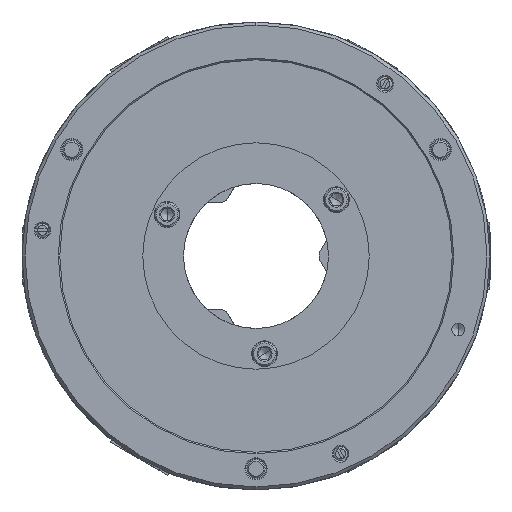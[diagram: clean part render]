
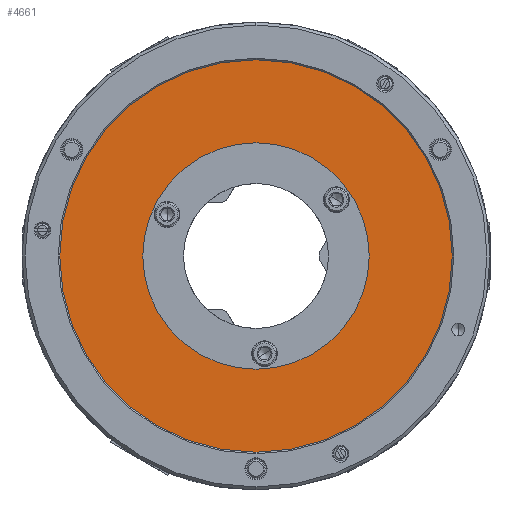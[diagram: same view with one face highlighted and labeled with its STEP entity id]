
A CAD part, left-side view. The second image highlights one B-rep face of the part: STEP entity #4661.
In plain terms, the highlighted planar face has unit normal (-1, 0, 0).
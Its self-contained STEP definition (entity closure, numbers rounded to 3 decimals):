
#1038 = EDGE_LOOP ( 'NONE', ( #29087, #46090 ) ) ;
#4661 = ADVANCED_FACE ( 'NONE', ( #24907, #13636 ), #47420, .T. ) ;
#6134 = CARTESIAN_POINT ( 'NONE',  ( -89., 0., 130. ) ) ;
#6211 = DIRECTION ( 'NONE',  ( 1., 0., 0. ) ) ;
#6235 = DIRECTION ( 'NONE',  ( 1., 0., 0. ) ) ;
#6650 = CIRCLE ( 'NONE', #39585, 130. ) ;
#7455 = CARTESIAN_POINT ( 'NONE',  ( -89., 0., 0. ) ) ;
#8565 = EDGE_CURVE ( 'NONE', #36275, #10677, #6650, .T. ) ;
#9372 = DIRECTION ( 'NONE',  ( 0., 0.866, -0.5 ) ) ;
#10366 = DIRECTION ( 'NONE',  ( 0., 0.866, -0.5 ) ) ;
#10677 = VERTEX_POINT ( 'NONE', #47414 ) ;
#10856 = CIRCLE ( 'NONE', #15450, 75. ) ;
#11985 = CARTESIAN_POINT ( 'NONE',  ( -89., 64.952, -37.5 ) ) ;
#12587 = AXIS2_PLACEMENT_3D ( 'NONE', #40567, #14674, #10366 ) ;
#13466 = AXIS2_PLACEMENT_3D ( 'NONE', #24218, #6211, #46742 ) ;
#13636 = FACE_OUTER_BOUND ( 'NONE', #1038, .T. ) ;
#14585 = DIRECTION ( 'NONE',  ( -1., 0., 0. ) ) ;
#14674 = DIRECTION ( 'NONE',  ( 1., 0., 0. ) ) ;
#14884 = CIRCLE ( 'NONE', #12587, 75. ) ;
#14974 = EDGE_CURVE ( 'NONE', #29731, #34914, #10856, .T. ) ;
#15450 = AXIS2_PLACEMENT_3D ( 'NONE', #7455, #39170, #44157 ) ;
#19322 = CARTESIAN_POINT ( 'NONE',  ( -89., -64.952, 37.5 ) ) ;
#19749 = AXIS2_PLACEMENT_3D ( 'NONE', #24657, #14585, #46940 ) ;
#21061 = EDGE_CURVE ( 'NONE', #10677, #36275, #39527, .T. ) ;
#23557 = EDGE_CURVE ( 'NONE', #34914, #29731, #14884, .T. ) ;
#23655 = ORIENTED_EDGE ( 'NONE', *, *, #23557, .T. ) ;
#24218 = CARTESIAN_POINT ( 'NONE',  ( -89., 0., 0. ) ) ;
#24519 = EDGE_LOOP ( 'NONE', ( #29794, #23655 ) ) ;
#24657 = CARTESIAN_POINT ( 'NONE',  ( -89., 37.5, 64.952 ) ) ;
#24907 = FACE_BOUND ( 'NONE', #24519, .T. ) ;
#29087 = ORIENTED_EDGE ( 'NONE', *, *, #21061, .F. ) ;
#29731 = VERTEX_POINT ( 'NONE', #11985 ) ;
#29794 = ORIENTED_EDGE ( 'NONE', *, *, #14974, .T. ) ;
#34914 = VERTEX_POINT ( 'NONE', #19322 ) ;
#36275 = VERTEX_POINT ( 'NONE', #6134 ) ;
#39170 = DIRECTION ( 'NONE',  ( 1., 0., 0. ) ) ;
#39527 = CIRCLE ( 'NONE', #13466, 130. ) ;
#39585 = AXIS2_PLACEMENT_3D ( 'NONE', #42236, #6235, #9372 ) ;
#40567 = CARTESIAN_POINT ( 'NONE',  ( -89., 0., 0. ) ) ;
#42236 = CARTESIAN_POINT ( 'NONE',  ( -89., 0., 0. ) ) ;
#44157 = DIRECTION ( 'NONE',  ( 0., 0.866, -0.5 ) ) ;
#46090 = ORIENTED_EDGE ( 'NONE', *, *, #8565, .F. ) ;
#46742 = DIRECTION ( 'NONE',  ( 0., 0.866, -0.5 ) ) ;
#46940 = DIRECTION ( 'NONE',  ( 0., -0.866, 0.5 ) ) ;
#47414 = CARTESIAN_POINT ( 'NONE',  ( -89., 0., -130. ) ) ;
#47420 = PLANE ( 'NONE',  #19749 ) ;
